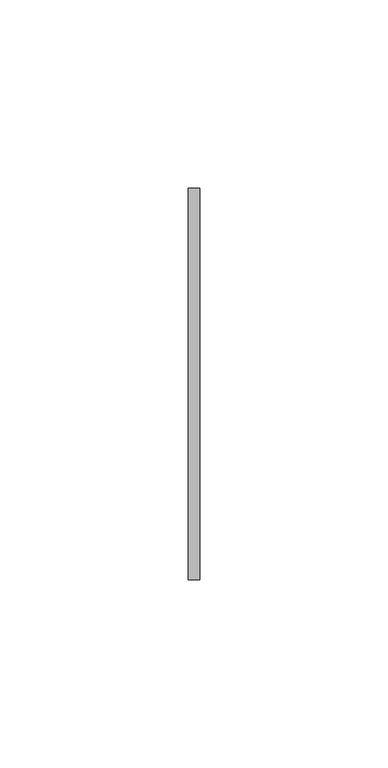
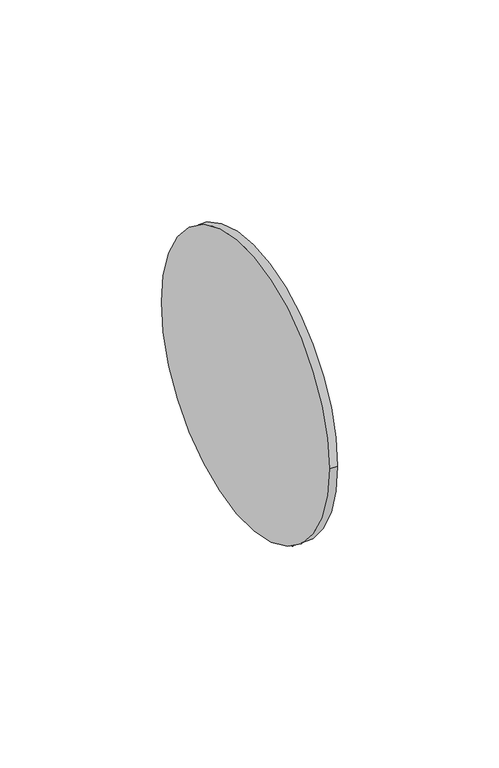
"""IFC4 building model written with IfcOpenShell, lengths in millimetres: pipe fitting geometry, PipeAccessory_GirpiHTA_CPVC_FlatGasketsForFlangeAdaptors : PipeAccessory_GirpiHTA_CPVC_FlatGasketsForFlangeAdaptors."""

from ifc_helpers import new_model, si_unit, point, frame, origin, origin_2d, place, context, project, spatial, circle_curve, trimmed, segment, composite_curve, outline, extrude, source, transform, mapped, element, save


def pipe_fitting_b1952d91(model_context):
    return source(origin(), model_context, "Body", "SweptSolid", [
        extrude(outline(composite_curve([segment(trimmed(circle_curve(origin_2d(), 52.0), [point((-52.0, 0.0))], [point((52.0, 0.0))], False, "CARTESIAN"), True, "CONTINUOUS"), segment(trimmed(circle_curve(origin_2d(), 52.0), [point((52.0, 0.0))], [point((-52.0, 0.0))], False, "CARTESIAN"), True, "CONTINUOUS")], self_intersect=False)), frame((-1.5, 0.0, 0.0), z_axis=(1.0, 0.0, 0.0), x_axis=(0.0, 1.0, 0.0)), (0.0, 0.0, 1.0), 3.0),
    ])


if __name__ == "__main__":
    model = new_model("IFC4")
    model_context = context("Model", 3, world=origin())
    ifc_project = project(units=[si_unit("LENGTHUNIT", "METRE", prefix="MILLI")], contexts=[model_context])
    site = spatial("IfcSite", under=ifc_project)
    building = spatial("IfcBuilding", under=site)
    placement = place(None, origin())
    pipe_fitting_shape = pipe_fitting_b1952d91(model_context)
    element("IfcPipeFitting", 1, ObjectType="PipeAccessory_GirpiHTA_CPVC_FlatGasketsForFlangeAdaptors : PipeAccessory_GirpiHTA_CPVC_FlatGasketsForFlangeAdaptors", at=placement, inside=building, context=model_context, shape_type="MappedRepresentation", body=[
        mapped(pipe_fitting_shape, transform((0.0, 0.0, 0.0), x_axis=(1.0, 0.0, 0.0), y_axis=(0.0, 1.0, 0.0), z_axis=(0.0, 0.0, 1.0))),
    ])
    save(model, "model.ifc")
